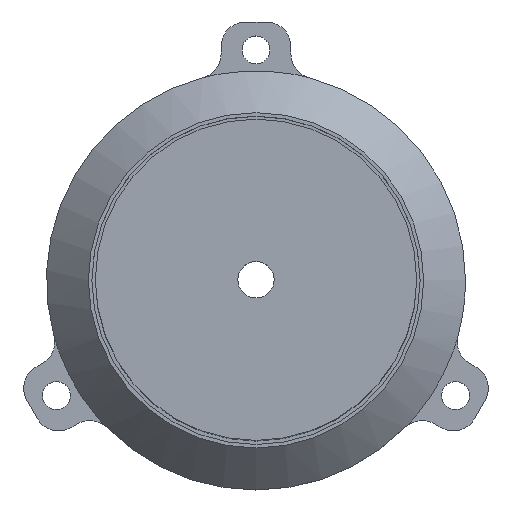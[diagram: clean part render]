
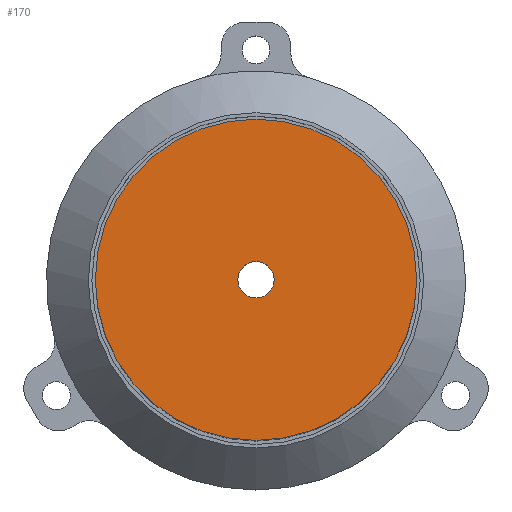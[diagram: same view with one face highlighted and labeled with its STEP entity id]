
A CAD part, top view. The second image highlights one B-rep face of the part: STEP entity #170.
In plain terms, the highlighted planar face has unit normal (0, 0, 1).
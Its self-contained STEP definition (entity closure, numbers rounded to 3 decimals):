
#57 = CYLINDRICAL_SURFACE('',#58,23.);
#58 = AXIS2_PLACEMENT_3D('',#59,#60,#61);
#59 = CARTESIAN_POINT('',(0.,0.,0.));
#60 = DIRECTION('',(-0.,-0.,-1.));
#61 = DIRECTION('',(1.,0.,0.));
#86 = VERTEX_POINT('',#87);
#87 = CARTESIAN_POINT('',(23.,0.,65.));
#108 = EDGE_CURVE('',#86,#86,#109,.T.);
#109 = SURFACE_CURVE('',#110,(#115,#122),.PCURVE_S1.);
#110 = CIRCLE('',#111,23.);
#111 = AXIS2_PLACEMENT_3D('',#112,#113,#114);
#112 = CARTESIAN_POINT('',(0.,0.,65.));
#113 = DIRECTION('',(0.,0.,1.));
#114 = DIRECTION('',(1.,0.,0.));
#115 = PCURVE('',#57,#116);
#116 = DEFINITIONAL_REPRESENTATION('',(#117),#121);
#117 = LINE('',#118,#119);
#118 = CARTESIAN_POINT('',(-0.,-65.));
#119 = VECTOR('',#120,1.);
#120 = DIRECTION('',(-1.,0.));
#121 = ( GEOMETRIC_REPRESENTATION_CONTEXT(2) 
PARAMETRIC_REPRESENTATION_CONTEXT() REPRESENTATION_CONTEXT('2D SPACE',''
  ) );
#122 = PCURVE('',#123,#128);
#123 = PLANE('',#124);
#124 = AXIS2_PLACEMENT_3D('',#125,#126,#127);
#125 = CARTESIAN_POINT('',(0.,0.,65.));
#126 = DIRECTION('',(0.,0.,1.));
#127 = DIRECTION('',(1.,0.,0.));
#128 = DEFINITIONAL_REPRESENTATION('',(#129),#133);
#129 = CIRCLE('',#130,23.);
#130 = AXIS2_PLACEMENT_2D('',#131,#132);
#131 = CARTESIAN_POINT('',(0.,0.));
#132 = DIRECTION('',(1.,0.));
#133 = ( GEOMETRIC_REPRESENTATION_CONTEXT(2) 
PARAMETRIC_REPRESENTATION_CONTEXT() REPRESENTATION_CONTEXT('2D SPACE',''
  ) );
#170 = ADVANCED_FACE('',(#171,#174),#123,.T.);
#171 = FACE_BOUND('',#172,.T.);
#172 = EDGE_LOOP('',(#173));
#173 = ORIENTED_EDGE('',*,*,#108,.T.);
#174 = FACE_BOUND('',#175,.T.);
#175 = EDGE_LOOP('',(#176));
#176 = ORIENTED_EDGE('',*,*,#177,.T.);
#177 = EDGE_CURVE('',#178,#178,#180,.T.);
#178 = VERTEX_POINT('',#179);
#179 = CARTESIAN_POINT('',(2.6,0.,65.));
#180 = SURFACE_CURVE('',#181,(#186,#197),.PCURVE_S1.);
#181 = CIRCLE('',#182,2.6);
#182 = AXIS2_PLACEMENT_3D('',#183,#184,#185);
#183 = CARTESIAN_POINT('',(0.,0.,65.));
#184 = DIRECTION('',(0.,0.,-1.));
#185 = DIRECTION('',(1.,0.,0.));
#186 = PCURVE('',#123,#187);
#187 = DEFINITIONAL_REPRESENTATION('',(#188),#196);
#188 = ( BOUNDED_CURVE() B_SPLINE_CURVE(2,(#189,#190,#191,#192,#193,#194
,#195),.UNSPECIFIED.,.T.,.F.) B_SPLINE_CURVE_WITH_KNOTS((1,2,2,2,2,1),(
    -2.094,0.,2.094,4.189,6.283,
8.378),.UNSPECIFIED.) CURVE() GEOMETRIC_REPRESENTATION_ITEM() 
RATIONAL_B_SPLINE_CURVE((1.,0.5,1.,0.5,1.,0.5,1.)) REPRESENTATION_ITEM(
  '') );
#189 = CARTESIAN_POINT('',(2.6,0.));
#190 = CARTESIAN_POINT('',(2.6,-4.503));
#191 = CARTESIAN_POINT('',(-1.3,-2.252));
#192 = CARTESIAN_POINT('',(-5.2,0.));
#193 = CARTESIAN_POINT('',(-1.3,2.252));
#194 = CARTESIAN_POINT('',(2.6,4.503));
#195 = CARTESIAN_POINT('',(2.6,0.));
#196 = ( GEOMETRIC_REPRESENTATION_CONTEXT(2) 
PARAMETRIC_REPRESENTATION_CONTEXT() REPRESENTATION_CONTEXT('2D SPACE',''
  ) );
#197 = PCURVE('',#198,#203);
#198 = CYLINDRICAL_SURFACE('',#199,2.6);
#199 = AXIS2_PLACEMENT_3D('',#200,#201,#202);
#200 = CARTESIAN_POINT('',(0.,0.,0.));
#201 = DIRECTION('',(-0.,-0.,-1.));
#202 = DIRECTION('',(1.,0.,0.));
#203 = DEFINITIONAL_REPRESENTATION('',(#204),#208);
#204 = LINE('',#205,#206);
#205 = CARTESIAN_POINT('',(-6.283,-65.));
#206 = VECTOR('',#207,1.);
#207 = DIRECTION('',(1.,-0.));
#208 = ( GEOMETRIC_REPRESENTATION_CONTEXT(2) 
PARAMETRIC_REPRESENTATION_CONTEXT() REPRESENTATION_CONTEXT('2D SPACE',''
  ) );
